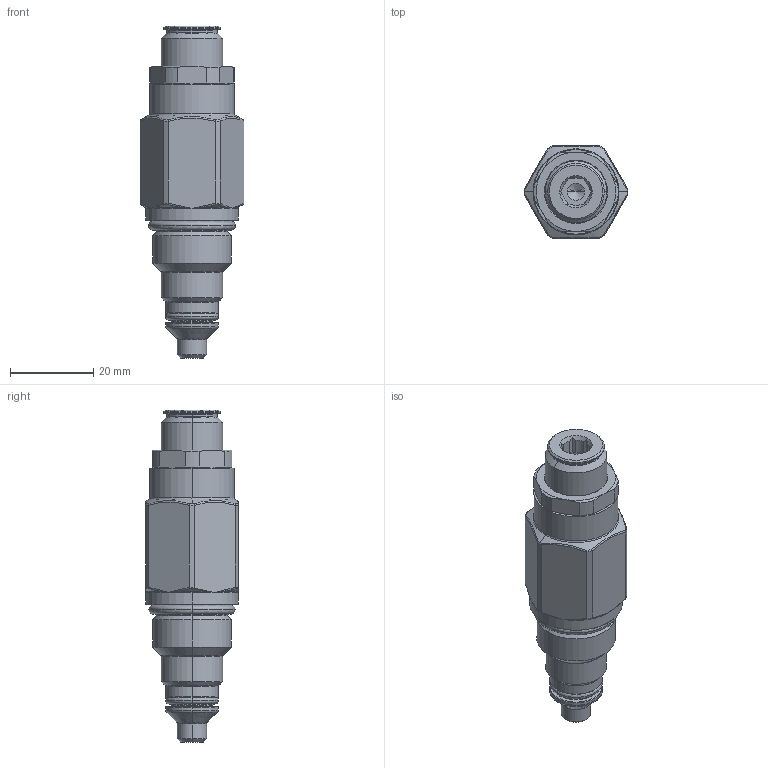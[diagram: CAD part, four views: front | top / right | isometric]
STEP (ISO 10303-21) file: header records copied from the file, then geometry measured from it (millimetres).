
FILE_DESCRIPTION((''),'2;1');
FILE_NAME('5612900_SW0001','2020-02-25T12:58:49',('jd1'),(''),'CREO PARAMETRIC BY PTC INC, 2018020','CREO PARAMETRIC BY PTC INC, 2018020','');
FILE_SCHEMA(('CONFIG_CONTROL_DESIGN'));
Length unit declared in the file: millimetre
Products named in the file (1): 5612900_SW0001
Bounding box: 24.93 x 22.23 x 79.74 mm (x, y, z)
Volume: 21334.2 mm3; surface area: 5746.1 mm2
Topology: 1 solids, 1 shells, 202 faces, 474 edges, 279 vertices
Faces by surface type: cylinder 44, cone 42, torus 42, plane 32, bspline 28, revolution 14
Entity records: 7638 total; most frequent: CARTESIAN_POINT 3258, ORIENTED_EDGE 944, DIRECTION 864, EDGE_CURVE 472, AXIS2_PLACEMENT_3D 369, VERTEX_POINT 279, EDGE_LOOP 209, CIRCLE 209
